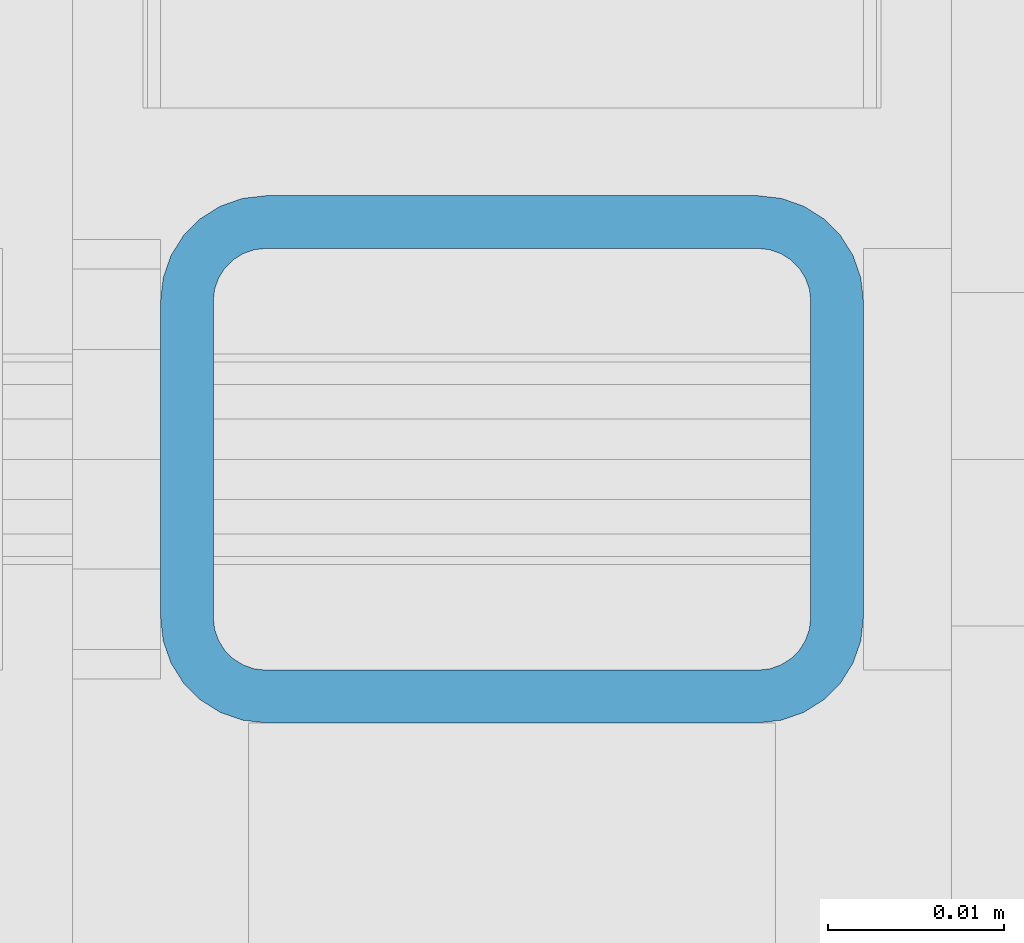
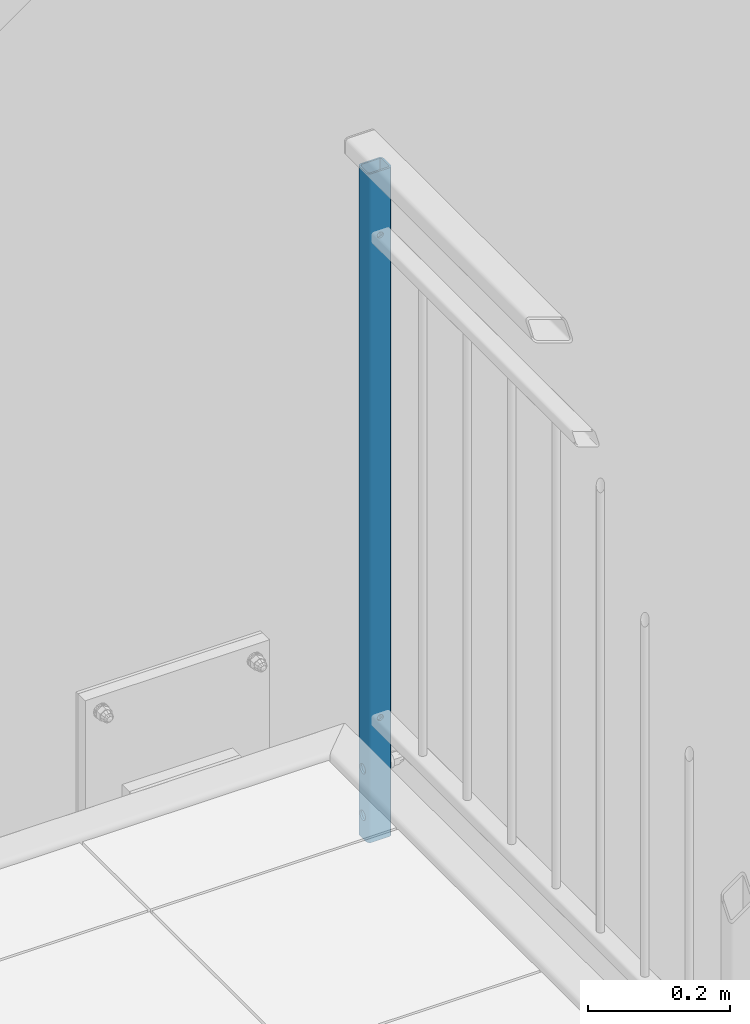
# One storey, part 14 of 162: 1 column, 6 openings.
"""IFC2X3 building model written with IfcOpenShell, lengths in millimetres."""

from ifc_helpers import new_model, entity, si_unit, converted_unit, frame, frame_2d, origin, origin_with_axes, origin_2d, place, context, project, spatial, hollow_rectangle, circle, extrude, material, element, save


model = new_model("IFC2X3")

# Units and contexts
model_context = context("Model", 3, precision=1e-09, world=origin_with_axes())
ifc_project = project(units=[si_unit("LENGTHUNIT", "METRE", prefix="MILLI"), si_unit("AREAUNIT", "SQUARE_METRE"), si_unit("VOLUMEUNIT", "CUBIC_METRE"), converted_unit("PLANEANGLEUNIT", "DEGREE", entity("IfcPlaneAngleMeasure", 0.01745329), si_unit("PLANEANGLEUNIT", "RADIAN"), dimensions=[0, 0, 0, 0, 0, 0, 0])], contexts=[model_context])

# Site, building, storey
site_placement = place(None, origin_with_axes())
site = spatial("IfcSite", under=ifc_project, at=site_placement, Name="Hermannstra?e 1a, 60318 Frankfurt", CompositionType="ELEMENT")
building_placement = place(site_placement, origin_with_axes())
building = spatial("IfcBuilding", under=site, at=building_placement, Name="Struktur 1", CompositionType="ELEMENT")
storey_placement = place(building_placement, origin_with_axes())
storey = spatial("IfcBuildingStorey", under=building, at=storey_placement, Name="Default Storey", CompositionType="ELEMENT", Elevation=0.0)

# Column, openings
ifc_material = material(Name="S235JR")
column_placement = place(None, frame((5848.30936482, 2630.609373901, 3775.0), z_axis=(0.0, 0.0, -1.0), x_axis=(0.0, -1.0, 0.0)))
column = element("IfcColumn", 1, at=column_placement, inside=storey, material=ifc_material, Name="-", ObjectType="-", context=model_context, shape_type="SweptSolid", body=[
    extrude(hollow_rectangle(XDim=30.0, YDim=40.0, WallThickness=3.0, InnerFilletRadius=3.0, OuterFilletRadius=6.0, at=origin_2d()), origin(), (0.0, 0.0, -1.0), 1150.0),
])
opening_1_placement = place(column_placement, frame((11.5, -5.001, -1040.0), z_axis=(-1.0, 0.0, 0.0), x_axis=(0.0, -1.0, 0.0)))
element("IfcOpeningElement", 2, at=opening_1_placement, cuts=column, ObjectType="Opening", context=model_context, shape_type="SweptSolid", body=[
    extrude(circle(Radius=5.001, at=frame_2d((-5.001, 0.0), x_axis=(1.0, 0.0))), origin(), (0.0, 0.0, -1.0), 4.0),
])
opening_2_placement = place(column_placement, frame((11.5, -5.001, -210.0), z_axis=(-1.0, 0.0, 0.0), x_axis=(0.0, -1.0, 0.0)))
element("IfcOpeningElement", 3, at=opening_2_placement, cuts=column, ObjectType="Opening", context=model_context, shape_type="SweptSolid", body=[
    extrude(circle(Radius=5.001, at=frame_2d((-5.001, 0.0), x_axis=(1.0, 0.0))), origin(), (0.0, 0.0, -1.0), 4.0),
])
opening_3_placement = place(column_placement, frame((8.001, 16.5, -120.0), z_axis=(0.0, -1.0, 0.0), x_axis=(1.0, 0.0, 0.0)))
element("IfcOpeningElement", 4, at=opening_3_placement, cuts=column, ObjectType="Opening", context=model_context, shape_type="SweptSolid", body=[
    extrude(circle(Radius=8.001, at=frame_2d((-8.001, 0.0), x_axis=(1.0, 0.0))), origin(), (0.0, 0.0, -1.0), 4.0),
])
opening_4_placement = place(column_placement, frame((8.001, 16.5, -40.0), z_axis=(0.0, -1.0, 0.0), x_axis=(1.0, 0.0, 0.0)))
element("IfcOpeningElement", 5, at=opening_4_placement, cuts=column, ObjectType="Opening", context=model_context, shape_type="SweptSolid", body=[
    extrude(circle(Radius=8.001, at=frame_2d((-8.001, 0.0), x_axis=(1.0, 0.0))), origin(), (0.0, 0.0, -1.0), 4.0),
])
opening_5_placement = place(column_placement, frame((8.001, -20.5, -120.0), z_axis=(0.0, -1.0, 0.0), x_axis=(1.0, 0.0, 0.0)))
element("IfcOpeningElement", 6, at=opening_5_placement, cuts=column, ObjectType="Opening", context=model_context, shape_type="SweptSolid", body=[
    extrude(circle(Radius=8.001, at=frame_2d((-8.001, 0.0), x_axis=(1.0, 0.0))), origin(), (0.0, 0.0, -1.0), 4.0),
])
opening_6_placement = place(column_placement, frame((8.001, -20.5, -40.0), z_axis=(0.0, -1.0, 0.0), x_axis=(1.0, 0.0, 0.0)))
element("IfcOpeningElement", 7, at=opening_6_placement, cuts=column, ObjectType="Opening", context=model_context, shape_type="SweptSolid", body=[
    extrude(circle(Radius=8.001, at=frame_2d((-8.001, 0.0), x_axis=(1.0, 0.0))), origin(), (0.0, 0.0, -1.0), 4.0),
])

save(model, "model.ifc")
